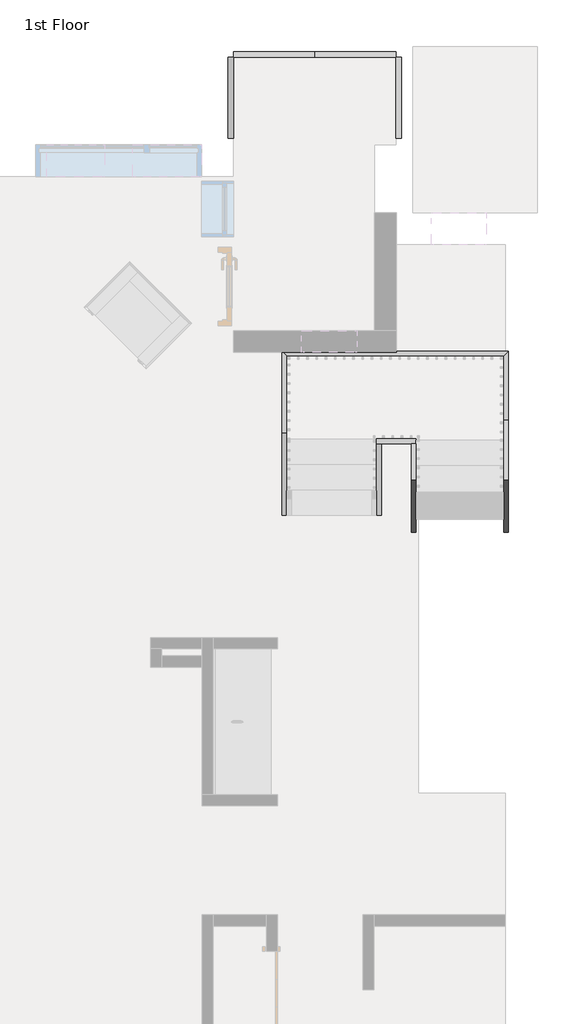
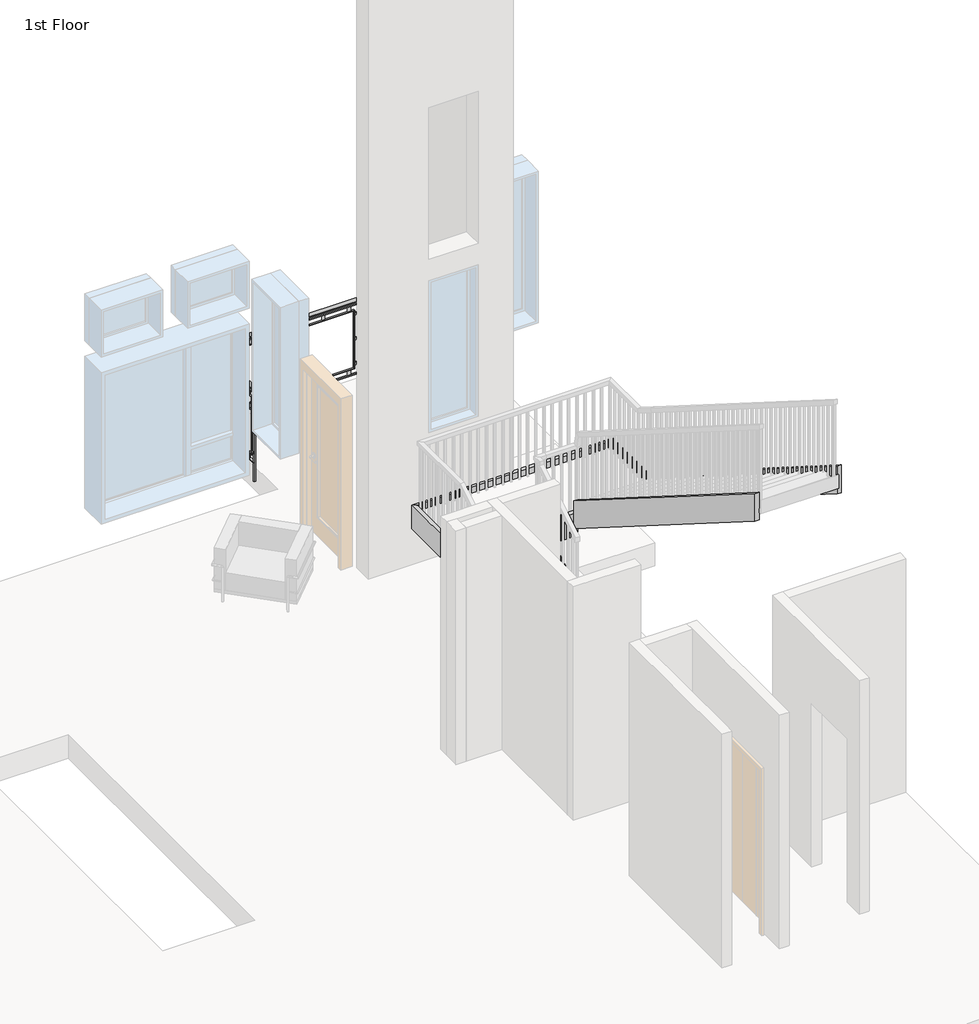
# One storey, part 6 of 6: 8 members, 4 proxies.
"""IFC4 building model written with IfcOpenShell, lengths in millimetres."""

import ifcopenshell
import ifcopenshell.guid

model = None  # the IFC model being written
_history = None  # IfcOwnerHistory: only IFC2X3 demands one
_inside = {}  # id of a spatial element -> (the spatial element, [elements in it])
_under = {}  # id of a project, library or spatial element -> (it, [spatial elements below it])
_declared = {}  # id of a project -> (the project, [libraries it declares])
_typed = {}  # id of a type object -> (the type object, [elements of that type])
_made_of = {}  # id of a material, layer set ... -> (it, [elements and type objects made of it])


def new_model(schema):
    """Start an empty IFC model of exactly this schema.

    Asked for "IFC4X3", IfcOpenShell would pick the latest addendum, in which some entities
    have other attributes; the version numbers below select the first issue.
    IFC2X3 requires an IfcOwnerHistory on every rooted entity: one is made here for all.
    """
    global model, _history
    if schema == "IFC4X3":
        model = ifcopenshell.file(schema_version=(4, 3, 0, 0))
    else:
        model = ifcopenshell.file(schema=schema)
    _inside.clear()
    _under.clear()
    _declared.clear()
    _typed.clear()
    _made_of.clear()
    _history = None
    if model.schema == "IFC2X3":
        org = make("IfcOrganization", Name="unknown")
        user = make(
            "IfcPersonAndOrganization",
            ThePerson=make("IfcPerson", FamilyName="unknown"),
            TheOrganization=org,
        )
        app = make(
            "IfcApplication",
            ApplicationDeveloper=org,
            Version="unknown",
            ApplicationFullName="unknown",
            ApplicationIdentifier="unknown",
        )
        _history = make(
            "IfcOwnerHistory",
            OwningUser=user,
            OwningApplication=app,
            ChangeAction="ADDED",
            CreationDate=0,
        )
    return model


def make(cls, **values):
    """One entity of the class cls with the attributes given. An attribute that is None is left unset."""
    return model.create_entity(
        cls, **{name: value for name, value in values.items() if value is not None}
    )


def rooted(cls, **values):
    """An entity with a GlobalId (a new one), such as an element, a storey or a relation."""
    return make(cls, GlobalId=ifcopenshell.guid.new(), OwnerHistory=_history, **values)


def si_unit(unit_type, name, prefix=None):
    """IfcSIUnit, for example si_unit("LENGTHUNIT", "METRE", prefix="MILLI")."""
    return make("IfcSIUnit", UnitType=unit_type, Prefix=prefix, Name=name)


def assignment(units):
    """IfcUnitAssignment: the units of a project."""
    return None if units is None else make("IfcUnitAssignment", Units=units)


def point(xyz):
    """IfcCartesianPoint."""
    return None if xyz is None else make("IfcCartesianPoint", Coordinates=xyz)


def direction(xyz):
    """IfcDirection."""
    return None if xyz is None else make("IfcDirection", DirectionRatios=xyz)


def frame(location, z_axis=None, x_axis=None):
    """IfcAxis2Placement3D, a coordinate frame: its origin and axes. An axis left out is left unset."""
    return make(
        "IfcAxis2Placement3D",
        Location=point(location),
        Axis=direction(z_axis),
        RefDirection=direction(x_axis),
    )


def frame_2d(location, x_axis=None):
    """IfcAxis2Placement2D, a coordinate frame in the plane: its origin and x axis."""
    return make(
        "IfcAxis2Placement2D", Location=point(location), RefDirection=direction(x_axis)
    )


def origin():
    """The frame at (0, 0, 0) with its axes left unset."""
    return frame((0.0, 0.0, 0.0))


def place(relative_to, where):
    """IfcLocalPlacement: puts the frame where relative to a parent placement (None: the world)."""
    return make(
        "IfcLocalPlacement", PlacementRelTo=relative_to, RelativePlacement=where
    )


def context(
    kind, dimensions, precision=None, world=None, true_north=None, identifier=None
):
    """IfcGeometricRepresentationContext, for example the 3D "Model" context."""
    return make(
        "IfcGeometricRepresentationContext",
        ContextIdentifier=identifier,
        ContextType=kind,
        CoordinateSpaceDimension=dimensions,
        Precision=precision,
        WorldCoordinateSystem=world,
        TrueNorth=true_north,
    )


def project(units=None, contexts=None):
    """IfcProject with its units and contexts."""
    return rooted(
        "IfcProject",
        Name="project",
        RepresentationContexts=contexts,
        UnitsInContext=assignment(units),
    )


def spatial(cls, under=None, at=None, **own):
    """A site, building, storey or space (cls), placed at a placement, below another one or the project."""
    s = rooted(cls, ObjectPlacement=at, **own)
    if under is not None:
        _under.setdefault(under.id(), (under, []))[1].append(s)
    return s


def polyline(points):
    """IfcPolyline through the points."""
    return make("IfcPolyline", Points=[point(p) for p in points])


def circle_curve(where, radius):
    """IfcCircle in the frame where."""
    return make("IfcCircle", Position=where, Radius=radius)


def trimmed(basis, trim1, trim2, sense, master):
    """IfcTrimmedCurve: the piece of a basis curve between two trims."""
    return make(
        "IfcTrimmedCurve",
        BasisCurve=basis,
        Trim1=trim1,
        Trim2=trim2,
        SenseAgreement=sense,
        MasterRepresentation=master,
    )


def segment(curve, same_sense, transition):
    """IfcCompositeCurveSegment."""
    return make(
        "IfcCompositeCurveSegment",
        Transition=transition,
        SameSense=same_sense,
        ParentCurve=curve,
    )


def composite_curve(segments, self_intersect=None):
    """IfcCompositeCurve: segments joined end to end."""
    return make("IfcCompositeCurve", Segments=segments, SelfIntersect=self_intersect)


def outline(outer, holes=None, kind="AREA"):
    """IfcArbitraryClosedProfileDef: a profile drawn as a closed curve; with holes, ...WithVoids."""
    if holes is None:
        return make("IfcArbitraryClosedProfileDef", ProfileType=kind, OuterCurve=outer)
    return make(
        "IfcArbitraryProfileDefWithVoids",
        ProfileType=kind,
        OuterCurve=outer,
        InnerCurves=holes,
    )


def extrude(swept, where, along, depth):
    """IfcExtrudedAreaSolid: the profile swept, set in the frame where, extruded along a direction by depth."""
    return make(
        "IfcExtrudedAreaSolid",
        SweptArea=swept,
        Position=where,
        ExtrudedDirection=direction(along),
        Depth=depth,
    )


def faces_of(points, faces, orient=None, outer=None):
    """IfcFace entities. A face is a list of loops; a loop is a list of indices into points, from 0.

    orient and outer hold one flag for each loop. By default every Orientation is true, the
    first loop of a face is its IfcFaceOuterBound and the others are IfcFaceBound.
    """
    made = []
    for i, loops in enumerate(faces):
        bounds = []
        for j, loop in enumerate(loops):
            is_outer = j == 0 if outer is None else outer[i][j]
            bounds.append(
                make(
                    "IfcFaceOuterBound" if is_outer else "IfcFaceBound",
                    Bound=make("IfcPolyLoop", Polygon=[points[k] for k in loop]),
                    Orientation=True if orient is None else orient[i][j],
                )
            )
        made.append(make("IfcFace", Bounds=bounds))
    return made


def faceted_brep(points, faces, orient=None, outer=None, voids=None):
    """IfcFacetedBrep: a solid bounded by flat faces; with voids (closed shells), ...WithVoids."""
    shared = [point(p) for p in points]
    hull = make("IfcClosedShell", CfsFaces=faces_of(shared, faces, orient, outer))
    if voids is None:
        return make("IfcFacetedBrep", Outer=hull)
    return make(
        "IfcFacetedBrepWithVoids",
        Outer=hull,
        Voids=[
            make(cls, CfsFaces=faces_of(shared, fs, o, b)) for cls, fs, o, b in voids
        ],
    )


def shape(context_of_items, identifier, shape_type, items):
    """IfcShapeRepresentation: the items that make up one representation, for example the "Body"."""
    return make(
        "IfcShapeRepresentation",
        ContextOfItems=context_of_items,
        RepresentationIdentifier=identifier,
        RepresentationType=shape_type,
        Items=items,
    )


def source(mapping_origin, context_of_items, identifier, shape_type, items):
    """IfcRepresentationMap: a shape defined once, which mapped items show again and again."""
    return make(
        "IfcRepresentationMap",
        MappingOrigin=mapping_origin,
        MappedRepresentation=shape(context_of_items, identifier, shape_type, items),
    )


def transform(
    local_origin,
    x_axis=None,
    y_axis=None,
    z_axis=None,
    scale=None,
    scale2=None,
    scale3=None,
    uniform=True,
):
    """IfcCartesianTransformationOperator3D, or its non-uniform kind. x_axis, y_axis, z_axis: its Axis1, 2, 3."""
    if uniform:
        return make(
            "IfcCartesianTransformationOperator3D",
            Axis1=direction(x_axis),
            Axis2=direction(y_axis),
            LocalOrigin=point(local_origin),
            Scale=scale,
            Axis3=direction(z_axis),
        )
    return make(
        "IfcCartesianTransformationOperator3DnonUniform",
        Axis1=direction(x_axis),
        Axis2=direction(y_axis),
        LocalOrigin=point(local_origin),
        Scale=scale,
        Axis3=direction(z_axis),
        Scale2=scale2,
        Scale3=scale3,
    )


def mapped(mapping_source, mapping_target):
    """IfcMappedItem: shows the shape of a source again, moved by a transform."""
    return make(
        "IfcMappedItem", MappingSource=mapping_source, MappingTarget=mapping_target
    )


def made_of(thing, what):
    """Note that an element or type object is made of a material, layer set ...; save() writes the relation."""
    if what is not None:
        _made_of.setdefault(what.id(), (what, []))[1].append(thing)
    return thing


def element(
    cls,
    number,
    at=None,
    inside=None,
    cuts=None,
    type_object=None,
    material=None,
    context=None,
    identifier="Body",
    shape_type=None,
    held_by="IfcProductDefinitionShape",
    body=None,
    shapes=None,
    **own,
):
    """One element of the class cls, such as IfcWall. Its Tag is "e" and its number.

    at: its placement. inside: the storey or other place that contains it. cuts: it is an
    opening in that element (IfcRelVoidsElement). A single representation is given by context,
    identifier, shape_type and body (its items); several are given by shapes. held_by: the class
    of the entity that holds the representations. save() writes the other relations.
    """
    e = rooted(cls, Tag="e%d" % number, ObjectPlacement=at, **own)
    if body is not None:
        shapes = [shape(context, identifier, shape_type, body)]
    if shapes is not None:
        e.Representation = make(held_by, Representations=shapes)
    if inside is not None:
        _inside.setdefault(inside.id(), (inside, []))[1].append(e)
    if cuts is not None:
        rooted(
            "IfcRelVoidsElement", RelatingBuildingElement=cuts, RelatedOpeningElement=e
        )
    if type_object is not None:
        _typed.setdefault(type_object.id(), (type_object, []))[1].append(e)
    return made_of(e, material)


def aggregate(whole, parts):
    """IfcRelAggregates: a whole, such as a stair, and the parts it consists of."""
    return rooted("IfcRelAggregates", RelatingObject=whole, RelatedObjects=parts)


def save(model, path):
    """Write the relations noted so far, then the file.

    IfcRelAggregates (storeys below a building ...), IfcRelContainedInSpatialStructure (elements
    in a storey), IfcRelDefinesByType, IfcRelAssociatesMaterial and IfcRelDeclares: one each for
    every whole, place, type object, material and project.
    """
    for whole, parts in _under.values():
        aggregate(whole, parts)
    for where, things in _inside.values():
        rooted(
            "IfcRelContainedInSpatialStructure",
            RelatedElements=things,
            RelatingStructure=where,
        )
    for kind, things in _typed.values():
        rooted("IfcRelDefinesByType", RelatedObjects=things, RelatingType=kind)
    for what, things in _made_of.values():
        rooted("IfcRelAssociatesMaterial", RelatedObjects=things, RelatingMaterial=what)
    for by, libraries in _declared.values():
        rooted("IfcRelDeclares", RelatingContext=by, RelatedDefinitions=libraries)
    model.write(path)


def railing_1panel_square_2b676750(model_context):
    return source(origin(), model_context, "Body", "SweptSolid", [
        extrude(outline(composite_curve([segment(polyline([(-14.1100455, 1052.7246444), (-19.2876824, 1052.7246444)]), True, "CONTINUOUS"), segment(trimmed(circle_curve(frame_2d((10.4074773, 1028.43798)), 38.36202), [point((-19.2876824, 1052.7246444))], [point((40.102637, 1052.7246444))], False, "CARTESIAN"), True, "CONTINUOUS"), segment(polyline([(40.102637, 1052.7246444), (36.6899545, 1052.7246444), (36.6899545, 1040.0246444), (-14.1100455, 1040.0246444), (-14.1100455, 1052.7246444)]), True, "CONTINUOUS")], self_intersect=False)), frame((82.55, 0.0, 0.0), z_axis=(1.0, 0.0, 0.0), x_axis=(0.0, 1.0, 0.0)), (0.0, 0.0, 1.0), 891.38125),
        extrude(outline(polyline([(863.0557952, 19.05), (863.0557952, 12.7), (824.5770863, 12.7), (824.5770863, 19.05), (863.0557952, 19.05)])), frame((0.0, 0.0, 922.8085884), z_axis=(0.0, 0.0, 1.0), x_axis=(1.0, 0.0, 0.0)), (0.0, 0.0, 1.0), 66.675),
        extrude(outline(polyline([(863.0557952, 19.05), (863.0557952, 12.7), (824.5770863, 12.7), (824.5770863, 19.05), (863.0557952, 19.05)])), frame((0.0, 0.0, 94.1335884), z_axis=(0.0, 0.0, 1.0), x_axis=(1.0, 0.0, 0.0)), (0.0, 0.0, 1.0), 66.675),
        extrude(outline(polyline([(191.0442048, 12.7), (191.0442048, 19.05), (229.5229137, 19.05), (229.5229137, 12.7), (191.0442048, 12.7)])), frame((0.0, 0.0, 922.8085884), z_axis=(0.0, 0.0, 1.0), x_axis=(1.0, 0.0, 0.0)), (0.0, 0.0, 1.0), 66.675),
        extrude(outline(polyline([(191.0442048, 12.7), (191.0442048, 19.05), (229.5229137, 19.05), (229.5229137, 12.7), (191.0442048, 12.7)])), frame((0.0, 0.0, 94.1335884), z_axis=(0.0, 0.0, 1.0), x_axis=(1.0, 0.0, 0.0)), (0.0, 0.0, 1.0), 66.675),
        extrude(outline(polyline([(146.05, 19.05), (146.05, 12.7), (107.95, 12.7), (107.95, 19.05), (146.05, 19.05)])), frame((0.0, 0.0, 200.4960884), z_axis=(0.0, 0.0, 1.0), x_axis=(1.0, 0.0, 0.0)), (0.0, 0.0, 1.0), 38.1),
        extrude(outline(polyline([(146.05, 19.05), (146.05, 12.7), (107.95, 12.7), (107.95, 19.05), (146.05, 19.05)])), frame((0.0, 0.0, 522.7585884), z_axis=(0.0, 0.0, 1.0), x_axis=(1.0, 0.0, 0.0)), (0.0, 0.0, 1.0), 38.1),
        extrude(outline(polyline([(146.05, 19.05), (146.05, 12.7), (107.95, 12.7), (107.95, 19.05), (146.05, 19.05)])), frame((0.0, 0.0, 848.1960884), z_axis=(0.0, 0.0, 1.0), x_axis=(1.0, 0.0, 0.0)), (0.0, 0.0, 1.0), 38.1),
        extrude(outline(polyline([(908.05, 12.7), (908.05, 19.05), (946.15, 19.05), (946.15, 12.7), (908.05, 12.7)])), frame((0.0, 0.0, 200.4960884), z_axis=(0.0, 0.0, 1.0), x_axis=(1.0, 0.0, 0.0)), (0.0, 0.0, 1.0), 38.1),
        extrude(outline(polyline([(908.05, 12.7), (908.05, 19.05), (946.15, 19.05), (946.15, 12.7), (908.05, 12.7)])), frame((0.0, 0.0, 522.7585884), z_axis=(0.0, 0.0, 1.0), x_axis=(1.0, 0.0, 0.0)), (0.0, 0.0, 1.0), 38.1),
        extrude(outline(polyline([(908.05, 12.7), (908.05, 19.05), (946.15, 19.05), (946.15, 12.7), (908.05, 12.7)])), frame((0.0, 0.0, 848.1960884), z_axis=(0.0, 0.0, 1.0), x_axis=(1.0, 0.0, 0.0)), (0.0, 0.0, 1.0), 38.1),
        extrude(outline(polyline([(508.0, 12.7), (508.0, 19.05), (546.1, 19.05), (546.1, 12.7), (508.0, 12.7)])), frame((0.0, 0.0, 922.8085884), z_axis=(0.0, 0.0, 1.0), x_axis=(1.0, 0.0, 0.0)), (0.0, 0.0, 1.0), 66.675),
        extrude(outline(polyline([(508.0, 12.7), (508.0, 19.05), (546.1, 19.05), (546.1, 12.7), (508.0, 12.7)])), frame((0.0, 0.0, 94.1335884), z_axis=(0.0, 0.0, 1.0), x_axis=(1.0, 0.0, 0.0)), (0.0, 0.0, 1.0), 66.675),
        extrude(outline(polyline([(152.4, 19.05), (152.4, 0.0), (146.05, 0.0), (146.05, 19.05), (152.4, 19.05)])), frame((0.0, 0.0, 167.1585884), z_axis=(0.0, 0.0, 1.0), x_axis=(1.0, 0.0, 0.0)), (0.0, 0.0, 1.0), 749.3),
        extrude(outline(polyline([(107.95, 19.05), (107.95, 0.0), (95.25, 0.0), (95.25, 19.05), (107.95, 19.05)])), frame((0.0, 0.0, -152.4), z_axis=(0.0, 0.0, 1.0), x_axis=(1.0, 0.0, 0.0)), (0.0, 0.0, 1.0), 1192.4246444),
        extrude(outline(polyline([(901.7, 19.05), (908.05, 19.05), (908.05, 0.0), (901.7, 0.0), (901.7, 19.05)])), frame((0.0, 0.0, 167.1585884), z_axis=(0.0, 0.0, 1.0), x_axis=(1.0, 0.0, 0.0)), (0.0, 0.0, 1.0), 749.3),
        extrude(outline(polyline([(146.05, 0.0), (146.05, 19.05), (908.05, 19.05), (908.05, 0.0), (146.05, 0.0)])), frame((0.0, 0.0, 916.4585884), z_axis=(0.0, 0.0, 1.0), x_axis=(1.0, 0.0, 0.0)), (0.0, 0.0, 1.0), 6.35),
        extrude(outline(polyline([(107.95, 0.0), (107.95, 19.05), (946.15, 19.05), (946.15, 0.0), (107.95, 0.0)])), frame((0.0, 0.0, 81.4335884), z_axis=(0.0, 0.0, 1.0), x_axis=(1.0, 0.0, 0.0)), (0.0, 0.0, 1.0), 12.7),
        extrude(outline(polyline([(107.6177069, 0.0), (107.6177069, 19.05), (946.15, 19.05), (946.15, 0.0), (107.6177069, 0.0)])), frame((0.0, 0.0, 989.4835884), z_axis=(0.0, 0.0, 1.0), x_axis=(1.0, 0.0, 0.0)), (0.0, 0.0, 1.0), 12.7),
        extrude(outline(polyline([(146.05, 0.0), (146.05, 19.05), (908.05, 19.05), (908.05, 0.0), (146.05, 0.0)])), frame((0.0, 0.0, 160.8085884), z_axis=(0.0, 0.0, 1.0), x_axis=(1.0, 0.0, 0.0)), (0.0, 0.0, 1.0), 6.35),
        extrude(outline(polyline([(946.15, 19.05), (958.85, 19.05), (958.85, 0.0), (946.15, 0.0), (946.15, 19.05)])), frame((0.0, 0.0, -152.4), z_axis=(0.0, 0.0, 1.0), x_axis=(1.0, 0.0, 0.0)), (0.0, 0.0, 1.0), 1192.6835884),
    ])


model = new_model("IFC4")

# Units and contexts
model_context = context("Model", 3, world=origin())
ifc_project = project(units=[si_unit("LENGTHUNIT", "METRE", prefix="MILLI")], contexts=[model_context])

# Site, building, storey
site = spatial("IfcSite", under=ifc_project)
building = spatial("IfcBuilding", under=site)
storey = spatial("IfcBuildingStorey", under=building, Name="1st Floor", Elevation=0.0)

# Proxies
placement = place(None, origin())
railing_1panel_square_shape = railing_1panel_square_2b676750(model_context)
element("IfcBuildingElementProxy", 1, Name="railing(inprogress)3 : railing 1panel square", ObjectType="railing(inprogress)3 : railing 1panel square", at=placement, inside=storey, context=model_context, shape_type="MappedRepresentation", body=[
    mapped(railing_1panel_square_shape, transform((2629.5676395, 6788.5000585, 0.0), x_axis=(0.0, 1.0, 0.0), y_axis=(-1.0, 0.0, 0.0), z_axis=(0.0, 0.0, 1.0))),
])
element("IfcBuildingElementProxy", 2, Name="railing(inprogress)3 : railing 1panel square", ObjectType="railing(inprogress)3 : railing 1panel square", at=placement, inside=storey, context=model_context, shape_type="MappedRepresentation", body=[
    mapped(railing_1panel_square_shape, transform((3464.9951899, 7781.718991, 0.0), x_axis=(1.0, 0.0, 0.0), y_axis=(0.0, 1.0, 0.0), z_axis=(0.0, 0.0, 1.0))),
])
element("IfcBuildingElementProxy", 3, Name="railing(inprogress)3 : railing 1panel square", ObjectType="railing(inprogress)3 : railing 1panel square", at=placement, inside=storey, context=model_context, shape_type="MappedRepresentation", body=[
    mapped(railing_1panel_square_shape, transform((2566.3053219, 7781.718991, 0.0), x_axis=(1.0, 0.0, 0.0), y_axis=(0.0, 1.0, 0.0), z_axis=(0.0, 0.0, 1.0))),
])
element("IfcBuildingElementProxy", 4, Name="railing(inprogress)3 : railing 1panel square", ObjectType="railing(inprogress)3 : railing 1panel square", at=placement, inside=storey, context=model_context, shape_type="MappedRepresentation", body=[
    mapped(railing_1panel_square_shape, transform((4458.2141224, 7844.9813085, 0.0), x_axis=(0.0, -1.0, 0.0), y_axis=(1.0, 0.0, 0.0), z_axis=(0.0, 0.0, 1.0))),
])

# Members
element("IfcMember", 5, ObjectType="Stringer - 2\" Width", at=placement, inside=storey, context=model_context, shape_type="SweptSolid", body=[
    extrude(outline(polyline([(2721.6563085, 0.0), (2721.6563085, 214.5443726), (3620.2110519, 782.0526316), (3708.4050603, 477.2526316), (2952.7550603, 0.0), (2721.6563085, 0.0)])), frame((3183.1939282, 0.0, 0.0), z_axis=(1.0, 0.0, 0.0), x_axis=(0.0, 1.0, 0.0)), (0.0, 0.0, 1.0), 50.8),
])
element("IfcMember", 6, ObjectType="Stringer - 2\" Width", at=placement, inside=storey, context=model_context, shape_type="SweptSolid", body=[
    extrude(outline(polyline([(2721.6563085, 0.0), (2721.6563085, 214.5443726), (3509.0563085, 711.8496358), (3509.0563085, 351.3481568), (2952.7550603, 0.0), (2721.6563085, 0.0)])), frame((4224.5939282, 0.0, 0.0), z_axis=(1.0, 0.0, 0.0), x_axis=(0.0, 1.0, 0.0)), (0.0, 0.0, 1.0), 50.8),
])
element("IfcMember", 7, ObjectType="Stringer - 2\" Width", at=placement, inside=storey, context=model_context, shape_type="SweptSolid", body=[
    extrude(outline(polyline([(3765.7015652, 782.0526316), (3677.5075568, 477.2526316), (-364.9436915, 3030.3797357), (-364.9436915, 3390.8812147), (3765.7015652, 782.0526316)])), frame((5623.6030789, 0.0, 0.0), z_axis=(1.0, 0.0, 0.0), x_axis=(0.0, 1.0, 0.0)), (0.0, 0.0, 1.0), 50.8),
])
element("IfcMember", 8, ObjectType="Stringer - 2\" Width", at=placement, inside=storey, context=model_context, shape_type="SweptSolid", body=[
    extrude(outline(polyline([(3509.0563085, 944.1443726), (3509.0563085, 583.6428936), (-364.9436915, 3030.3797357), (-364.9436915, 3390.8812147), (3509.0563085, 944.1443726)])), frame((4607.6030789, 0.0, 0.0), z_axis=(1.0, 0.0, 0.0), x_axis=(0.0, 1.0, 0.0)), (0.0, 0.0, 1.0), 50.8),
])
element("IfcMember", 9, ObjectType="Stringer - 2\" Width", at=placement, inside=storey, context=model_context, shape_type="Brep", body=[
    faceted_brep([(5623.6030789, 3765.7015652, 782.0526316), (5674.4030789, 3765.7015652, 782.0526316), (5674.4030789, 4525.0563085, 782.0526316), (5623.6030789, 4474.2563085, 782.0526316), (5623.6030789, 3677.5075568, 477.2526316), (5623.6030789, 4474.2563085, 477.2526316), (5674.4030789, 3677.5075568, 477.2526316), (5674.4030789, 4525.0563085, 477.2526316)], [[[0, 1, 2, 3]], [[4, 0, 3, 5]], [[6, 4, 5, 7]], [[1, 6, 7, 2]], [[1, 0, 4, 6]], [[2, 7, 5, 3]]]),
])
element("IfcMember", 10, ObjectType="Stringer - 2\" Width", at=placement, inside=storey, context=model_context, shape_type="SweptSolid", body=[
    extrude(outline(polyline([(5674.4030789, 4525.0563085), (5623.6030789, 4474.2563085), (3233.9939282, 4474.2563085), (3183.1939282, 4525.0563085), (5674.4030789, 4525.0563085)])), frame((0.0, 0.0, 477.2526316), z_axis=(0.0, 0.0, 1.0), x_axis=(1.0, 0.0, 0.0)), (0.0, 0.0, 1.0), 304.8),
])
element("IfcMember", 11, ObjectType="Stringer - 2\" Width", at=placement, inside=storey, context=model_context, shape_type="Brep", body=[
    faceted_brep([(3233.9939282, 4474.2563085, 782.0526316), (3183.1939282, 4525.0563085, 782.0526316), (3183.1939282, 3620.2110519, 782.0526316), (3233.9939282, 3620.2110519, 782.0526316), (3233.9939282, 4474.2563085, 477.2526316), (3233.9939282, 3708.4050603, 477.2526316), (3183.1939282, 4525.0563085, 477.2526316), (3183.1939282, 3708.4050603, 477.2526316)], [[[0, 1, 2, 3]], [[4, 0, 3, 5]], [[6, 4, 5, 7]], [[1, 6, 7, 2]], [[1, 0, 4, 6]], [[2, 7, 5, 3]]]),
])
element("IfcMember", 12, ObjectType="Stringer - 2\" Width", at=placement, inside=storey, context=model_context, shape_type="SweptSolid", body=[
    extrude(outline(polyline([(4224.5939282, 3509.0563085), (4224.5939282, 3559.8563085), (4658.4030789, 3559.8563085), (4658.4030789, 3509.0563085), (4224.5939282, 3509.0563085)])), frame((0.0, 0.0, 477.2526316), z_axis=(0.0, 0.0, 1.0), x_axis=(1.0, 0.0, 0.0)), (0.0, 0.0, 1.0), 304.8),
])

save(model, "model.ifc")
